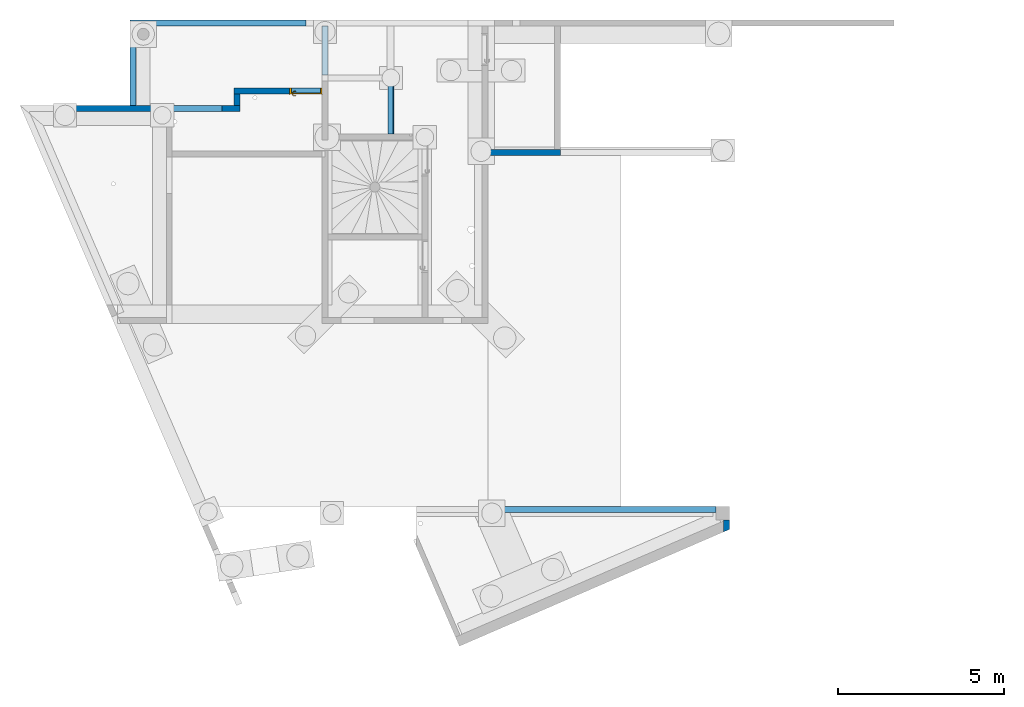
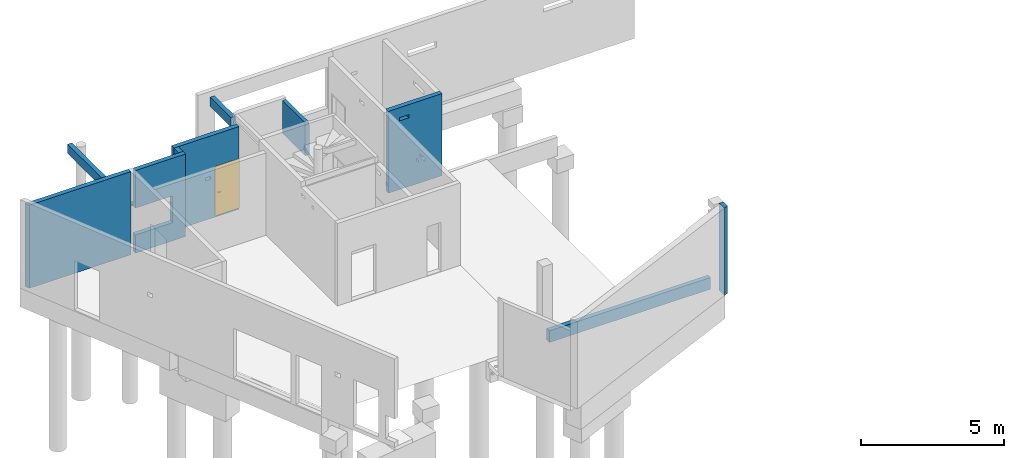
# One storey, part 5 of 29: 11 walls, 1 door, 9 openings.
"""IFC2X3 building model written with IfcOpenShell, lengths in centimetres."""

from ifc_helpers import new_model, entity, si_unit, converted_unit, derived_unit, direction, frame, frame_2d, origin, origin_2d_with_axis, place, context, subcontext, project, spatial, polyline, rectangle, outline, extrude, clip, bounded_halfspace, faceted_brep, source, transform, mapped, material, material_list, layer, layer_set, layer_usage, type_object, type_shapes, element, fill, save


model = new_model("IFC2X3")

# Units and contexts
model_context = context("Model", 3, precision=0.001, world=origin(), true_north=direction((6.12303176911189e-17, 1.0)))
body_context = subcontext(model_context, "Body", "Model", "MODEL_VIEW")
ifc_project = project(units=[si_unit("LENGTHUNIT", "METRE", prefix="CENTI"), si_unit("AREAUNIT", "SQUARE_METRE"), si_unit("VOLUMEUNIT", "CUBIC_METRE"), converted_unit("PLANEANGLEUNIT", "DEGREE", entity("IfcRatioMeasure", 0.0174532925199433), si_unit("PLANEANGLEUNIT", "RADIAN"), dimensions=[0, 0, 0, 0, 0, 0, 0]), si_unit("MASSUNIT", "GRAM", prefix="KILO"), derived_unit("MASSDENSITYUNIT", [(si_unit("MASSUNIT", "GRAM", prefix="KILO"), 1), (si_unit("LENGTHUNIT", "METRE"), -3)]), si_unit("TIMEUNIT", "SECOND"), si_unit("FREQUENCYUNIT", "HERTZ"), si_unit("THERMODYNAMICTEMPERATUREUNIT", "DEGREE_CELSIUS"), derived_unit("THERMALTRANSMITTANCEUNIT", [(si_unit("MASSUNIT", "GRAM", prefix="KILO"), 1), (si_unit("THERMODYNAMICTEMPERATUREUNIT", "KELVIN"), -1), (si_unit("TIMEUNIT", "SECOND"), -3)]), derived_unit("VOLUMETRICFLOWRATEUNIT", [(si_unit("LENGTHUNIT", "METRE"), 3), (si_unit("TIMEUNIT", "SECOND"), -1)]), si_unit("ELECTRICCURRENTUNIT", "AMPERE"), si_unit("ELECTRICVOLTAGEUNIT", "VOLT"), si_unit("POWERUNIT", "WATT"), si_unit("FORCEUNIT", "NEWTON"), si_unit("ILLUMINANCEUNIT", "LUX"), si_unit("LUMINOUSFLUXUNIT", "LUMEN"), si_unit("LUMINOUSINTENSITYUNIT", "CANDELA"), derived_unit("USERDEFINED", [(si_unit("MASSUNIT", "GRAM", prefix="KILO"), -1), (si_unit("LENGTHUNIT", "METRE"), -2), (si_unit("TIMEUNIT", "SECOND"), 3), (si_unit("LUMINOUSFLUXUNIT", "LUMEN"), 1)]), derived_unit("LINEARVELOCITYUNIT", [(si_unit("LENGTHUNIT", "METRE"), 1), (si_unit("TIMEUNIT", "SECOND"), -1)]), si_unit("PRESSUREUNIT", "PASCAL"), derived_unit("USERDEFINED", [(si_unit("LENGTHUNIT", "METRE"), -2), (si_unit("MASSUNIT", "GRAM", prefix="KILO"), 1), (si_unit("TIMEUNIT", "SECOND"), -2)])], contexts=[model_context])

# Site, building, storey
site_placement = place(None, origin())
site = spatial("IfcSite", under=ifc_project, at=site_placement, Name="Default", CompositionType="ELEMENT")
building_placement = place(site_placement, origin())
building = spatial("IfcBuilding", under=site, at=building_placement, Name="CAGE 03", CompositionType="ELEMENT")
storey_placement = place(building_placement, frame((0.0, 0.0, -34.0)))
storey = spatial("IfcBuildingStorey", under=building, at=storey_placement, Name="+3.66", CompositionType="ELEMENT", Elevation=-34.0000000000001)

# Wall, opening
ifc_material_1 = material(Name="Béton, C25/30")
ifc_layer = layer(ifc_material_1, 18.0)
ifc_layer_set = layer_set([ifc_layer], Name="Mur de base:Voile BA 18")
ifc_layer_usage_1 = layer_usage(ifc_layer_set, "AXIS2", "NEGATIVE", 9.0)
wall_type = type_object("IfcWallType", Name="Mur de base:Voile BA 18", PredefinedType="STANDARD", material=ifc_layer_set)
wall_1_placement = place(storey_placement, frame((3663.36582014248, 5275.66066607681, -5.0), z_axis=(0.0, 0.0, 1.0), x_axis=(0.0, -1.0, 0.0)))
wall_1 = element("IfcWallStandardCase", 1, at=wall_1_placement, inside=storey, type_object=wall_type, material=ifc_layer_usage_1, Name="Mur de base:Voile BA 18", ObjectType="Mur de base:Voile BA 18", context=body_context, shape_type="SweptSolid", body=[
    extrude(rectangle(XDim=147.0, YDim=18.0000000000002, at=frame_2d((73.5000000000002, 9.05941988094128e-14), x_axis=(-1.0, 0.0))), origin(), (0.0, 0.0, 1.0), 356.0),
])
opening_1_placement = place(wall_1_placement, frame((5275.66066607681, -3663.36582014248, 0.0), z_axis=(0.0, 0.0, 1.0), x_axis=(0.0, 1.0, 0.0)))
element("IfcOpeningElement", 2, at=opening_1_placement, cuts=wall_1, Name="Mur de base:Voile BA 18", ObjectType="Opening", context=body_context, shape_type="SweptSolid", body=[
    extrude(rectangle(XDim=311.0, YDim=146.999999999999, at=frame_2d((0.0, 0.0), x_axis=(0.0, 1.0))), frame((3519.96582014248, 5202.16066607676, 160.5), z_axis=(1.0, 0.0, 0.0), x_axis=(0.0, 1.0, 0.0)), (0.0, 0.0, 1.0), 304.8),
])

# Wall
ifc_layer_usage_2 = layer_usage(ifc_layer_set, "AXIS2", "POSITIVE", -9.0)
wall_2_placement = place(storey_placement, frame((4869.36582014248, 3755.29128037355, 0.0), z_axis=(0.0, 0.0, 1.0), x_axis=(0.0, 1.0, 0.0)))
element("IfcWallStandardCase", 3, at=wall_2_placement, inside=storey, type_object=wall_type, material=ifc_layer_usage_2, Name="Mur de base:Voile BA 18", ObjectType="Mur de base:Voile BA 18", context=body_context, shape_type="SweptSolid", body=[
    extrude(outline(polyline([(36.3693857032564, -9.0), (36.3693857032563, 9.0), (32.6878337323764, 9.0), (0.0, 9.0), (1.65957298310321, 5.16447533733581), (7.78832528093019, -9.0), (36.3693857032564, -9.0)])), origin(), (0.0, 0.0, 1.0), 374.0),
])

# Wall, opening
ifc_layer_usage_3 = layer_usage(ifc_layer_set, "AXIS2", "NEGATIVE", 9.0)
wall_3_placement = place(storey_placement, frame((4152.36582014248, 4895.66066607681, 0.0)))
wall_3 = element("IfcWallStandardCase", 4, at=wall_3_placement, inside=storey, type_object=wall_type, material=ifc_layer_usage_3, Name="Mur de base:Voile BA 18", ObjectType="Mur de base:Voile BA 18", context=body_context, shape_type="SweptSolid", body=[
    extrude(rectangle(XDim=218.0, YDim=17.9999999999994, at=frame_2d((109.0, -9.9475983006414e-14), x_axis=(-1.0, 0.0))), origin(), (0.0, 0.0, 1.0), 351.0),
])
opening_2_placement = place(storey_placement, frame((4152.36582014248, 4895.66066607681, 0.0)))
element("IfcOpeningElement", 5, at=opening_2_placement, cuts=wall_3, Name="Mur de base:Voile BA 18:1", ObjectType="Opening", context=body_context, shape_type="SweptSolid", body=[
    extrude(rectangle(XDim=18.0000000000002, YDim=38.0, at=origin_2d_with_axis()), frame((64.0295136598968, 0.0, 294.076580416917), z_axis=(0.0, 0.0, 1.0), x_axis=(0.0, -1.0, 0.0)), (0.0, 0.0, 1.0), 14.0),
])

ifc_layer_usage_4 = layer_usage(ifc_layer_set, "AXIS2", "POSITIVE", -9.0)
wall_4_placement = place(storey_placement, frame((3861.36582014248, 5110.66066607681, 227.0), z_axis=(0.0, 0.0, 1.0), x_axis=(0.0, -1.0, 0.0)))
wall_4 = element("IfcWallStandardCase", 6, at=wall_4_placement, inside=storey, type_object=wall_type, material=ifc_layer_usage_4, Name="Mur de base:Voile BA 18", ObjectType="Mur de base:Voile BA 18", context=body_context, shape_type="Clipping", body=[
    clip(clip(extrude(rectangle(XDim=159.999999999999, YDim=18.0000000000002, at=frame_2d((79.9999999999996, -8.08242361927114e-14), x_axis=(-1.0, 0.0))), origin(), (0.0, 0.0, 1.0), 140.0), bounded_halfspace(frame((0.0, 6.0, 124.0), z_axis=(0.0, 0.0, -1.0), x_axis=(1.0, 0.0, 0.0)), True, frame((0.0, 6.0, 124.0), z_axis=(0.0, 0.0, -1.0), x_axis=(1.0, 0.0, 0.0)), polyline([(0.0, 0.0), (0.0, -3.0), (160.0, -3.0), (160.0, 0.0), (0.0, 0.0)]))), bounded_halfspace(frame((160.0, 6.0, 124.0), z_axis=(0.0, -1.0, 0.0), x_axis=(0.0, 0.0, 1.0)), True, frame((160.0, 6.0, 124.0), z_axis=(0.0, -1.0, 0.0), x_axis=(0.0, 0.0, 1.0)), polyline([(0.0, 0.0), (16.0, 0.0), (16.0, 160.0), (0.0, 160.0), (0.0, 0.0)]))),
])
opening_3_placement = place(wall_4_placement, frame((5110.66066607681, -3861.36582014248, -227.0), z_axis=(0.0, 0.0, 1.0), x_axis=(0.0, 1.0, 0.0)))
element("IfcOpeningElement", 7, at=opening_3_placement, cuts=wall_4, Name="Mur de base:Voile BA 18", ObjectType="Opening", context=body_context, shape_type="SweptSolid", body=[
    extrude(rectangle(XDim=232.0, YDim=160.0, at=frame_2d((0.0, 0.0), x_axis=(0.0, 1.0))), frame((3717.96582014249, 5030.66066607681, 111.0), z_axis=(1.0, 0.0, 0.0), x_axis=(0.0, 1.0, 0.0)), (0.0, 0.0, 1.0), 304.8),
])

# Wall, opening, door
ifc_layer_usage_5 = layer_usage(ifc_layer_set, "AXIS2", "POSITIVE", -9.0)
wall_5_placement = place(storey_placement, frame((3389.86582014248, 5079.66066607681, -5.0)))
wall_5 = element("IfcWallStandardCase", 8, at=wall_5_placement, inside=storey, type_object=wall_type, material=ifc_layer_usage_5, Name="Mur de base:Voile BA 18", ObjectType="Mur de base:Voile BA 18", context=body_context, shape_type="SweptSolid", body=[
    extrude(rectangle(XDim=264.500000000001, YDim=17.9999999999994, at=frame_2d((132.250000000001, 1.33226762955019e-14), x_axis=(-1.0, 0.0))), origin(), (0.0, 0.0, 1.0), 354.0),
])
opening_4_placement = place(wall_5_placement, frame((264.500000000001, 9.0, 5.0)))
opening_4 = element("IfcOpeningElement", 9, at=opening_4_placement, cuts=wall_5, Name="Int. Simple:HB93:1", ObjectType="Opening", context=body_context, shape_type="SweptSolid", body=[
    extrude(rectangle(XDim=210.000000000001, YDim=96.9999999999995, at=frame_2d((105.000000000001, 48.4999999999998), x_axis=(1.0, 0.0))), frame((0.0, 0.0, 0.0), z_axis=(0.0, -1.0, 0.0), x_axis=(0.0, 0.0, 1.0)), (0.0, 0.0, 1.0), 18.0),
])
ifc_material_2 = material(Name="Finition Peinture - Blanc satiné")
ifc_material_3 = material(Name="Bois - Panneau de porte")
ifc_material_4 = material(Name="Bois - Cadre de porte")
ifc_material_list_1 = material_list([ifc_material_2, ifc_material_3, ifc_material_4])
ifc_material_list_2 = material_list([ifc_material_2, ifc_material_3, ifc_material_4])
door_style = type_object("IfcDoorStyle", Name="HB93", ConstructionType="NOTDEFINED", OperationType="SINGLE_SWING_LEFT", ParameterTakesPrecedence=False, Sizeable=False, material=ifc_material_list_2)
shared_shape = source(origin(), body_context, "Body", "Brep", [
    faceted_brep([(10.5352761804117, -0.500000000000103, 86.6003983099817), (11.5000000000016, -0.500000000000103, 87.0), (11.5000000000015, -0.500000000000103, 108.0), (10.5352761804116, -0.500000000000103, 108.399601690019), (9.50000000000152, -0.500000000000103, 108.535898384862), (8.46472381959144, -0.500000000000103, 108.399601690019), (7.50000000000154, -0.500000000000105, 108.0), (7.50000000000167, -0.500000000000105, 87.0), (8.46472381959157, -0.500000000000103, 86.6003983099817), (9.50000000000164, -0.500000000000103, 86.464101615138), (10.5352761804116, 0.0, 108.399601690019), (11.5000000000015, 0.0, 108.0), (11.5000000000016, 0.0, 87.0), (10.5352761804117, 0.0, 86.6003983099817), (9.50000000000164, 0.0, 86.464101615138), (8.46472381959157, 0.0, 86.6003983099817), (7.50000000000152, 0.0, 87.0), (7.50000000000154, 0.0, 108.0), (8.46472381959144, 0.0, 108.399601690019), (9.50000000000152, 0.0, 108.535898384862)], [[[0, 1, 2, 3, 4, 5, 6, 7, 8, 9]], [[10, 11, 12, 13, 14, 15, 16, 17, 18, 19]], [[16, 15, 8, 7]], [[8, 15, 14, 9]], [[14, 13, 0, 9]], [[13, 12, 1, 0]], [[2, 1, 12, 11]], [[11, 10, 3, 2]], [[3, 10, 19, 4]], [[19, 18, 5, 4]], [[18, 17, 6, 5]], [[7, 6, 17, 16]]]),
    faceted_brep([(10.5352761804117, 4.0, 86.6003983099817), (11.5000000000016, 4.0, 87.0), (11.5000000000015, 4.0, 108.0), (10.5352761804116, 4.0, 108.399601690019), (9.50000000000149, 4.0, 108.535898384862), (8.46472381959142, 4.0, 108.399601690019), (7.50000000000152, 4.0, 108.0), (7.50000000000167, 4.0, 87.0), (8.46472381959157, 4.0, 86.6003983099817), (9.50000000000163, 4.0, 86.464101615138), (10.5352761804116, 4.49999999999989, 108.399601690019), (11.5000000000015, 4.4999999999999, 108.0), (11.5000000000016, 4.4999999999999, 87.0), (10.5352761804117, 4.49999999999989, 86.6003983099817), (9.50000000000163, 4.49999999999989, 86.464101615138), (8.46472381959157, 4.49999999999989, 86.6003983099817), (7.50000000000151, 4.49999999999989, 87.0), (7.50000000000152, 4.49999999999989, 108.0), (8.46472381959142, 4.49999999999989, 108.399601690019), (9.50000000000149, 4.49999999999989, 108.535898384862)], [[[0, 1, 2, 3, 4, 5, 6, 7, 8, 9]], [[10, 11, 12, 13, 14, 15, 16, 17, 18, 19]], [[11, 10, 3, 2]], [[3, 10, 19, 4]], [[19, 18, 5, 4]], [[18, 17, 6, 5]], [[7, 6, 17, 16]], [[16, 15, 8, 7]], [[8, 15, 14, 9]], [[14, 13, 0, 9]], [[13, 12, 1, 0]], [[2, 1, 12, 11]]]),
    faceted_brep([(9.29747013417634, -0.500000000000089, 100.778044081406), (9.70252986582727, -0.500000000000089, 100.778044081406), (10.1000000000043, -0.500000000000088, 100.699999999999), (10.1000000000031, -0.500000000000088, 99.3000000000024), (9.70252986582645, -0.500000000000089, 99.2219559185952), (9.29747013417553, -0.500000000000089, 99.221955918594), (8.89999999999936, -0.500000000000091, 99.2999999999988), (8.89999999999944, -0.500000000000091, 100.7), (8.89999999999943, -3.26509507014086, 100.7), (9.29747013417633, -3.10045754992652, 100.778044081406), (10.9023585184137, -4.70534593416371, 100.778044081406), (11.0701397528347, -4.30028620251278, 100.778044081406), (9.70252986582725, -2.93267631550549, 100.778044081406), (10.1000000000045, -2.76803879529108, 100.7), (10.1000000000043, -2.76803879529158, 99.3000000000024), (9.70252986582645, -2.93267631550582, 99.2219559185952), (11.0701397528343, -4.30028620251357, 99.2219559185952), (10.9023585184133, -4.70534593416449, 99.221955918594), (9.29747013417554, -3.10045754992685, 99.221955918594), (8.89999999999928, -3.26509507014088, 99.2999999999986), (10.7377209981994, -5.1028160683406, 100.7), (11.2347772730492, -3.90281606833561, 100.7), (11.2347772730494, -3.90281606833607, 99.3000000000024), (10.7377209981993, -5.10281606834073, 99.2999999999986), (19.5018640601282, -5.1028160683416, 99.2999999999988), (19.5018640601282, -4.70534593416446, 99.221955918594), (19.5018640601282, -4.30028620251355, 99.2219559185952), (19.5018640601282, -3.90281606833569, 99.3000000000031), (19.5018640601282, -3.90281606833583, 100.7), (19.5018640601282, -4.30028620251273, 100.778044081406), (19.5018640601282, -4.70534593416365, 100.778044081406), (19.5018640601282, -5.10281606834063, 100.699999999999), (14.7307697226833, -5.10281606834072, 100.7), (15.28600190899, -4.5028160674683, 100.78786867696), (15.3683206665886, -3.9028160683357, 100.7), (15.3683206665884, -3.90281606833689, 99.3000000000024), (15.2860018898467, -4.50281607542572, 99.2121313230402), (14.7307700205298, -5.10281606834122, 99.2999999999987)], [[[0, 1, 2, 3, 4, 5, 6, 7]], [[8, 9, 0, 7]], [[9, 10, 11, 12, 1, 0]], [[12, 13, 2, 1]], [[3, 2, 13, 14]], [[14, 15, 4, 3]], [[15, 16, 17, 18, 5, 4]], [[18, 19, 6, 5]], [[7, 6, 19, 8]], [[20, 10, 9, 8]], [[11, 21, 13, 12]], [[14, 13, 21, 22]], [[22, 16, 15, 14]], [[17, 23, 19, 18]], [[8, 19, 23, 20]], [[24, 25, 26, 27, 28, 29, 30, 31]], [[32, 30, 33]], [[31, 30, 32]], [[10, 20, 32]], [[33, 34, 11]], [[21, 11, 34]], [[34, 29, 28]], [[30, 29, 33]], [[29, 34, 33]], [[10, 32, 33]], [[10, 33, 11]], [[22, 21, 34, 28, 27, 35]], [[35, 26, 36]], [[37, 36, 25]], [[22, 35, 16]], [[35, 27, 26]], [[24, 37, 25]], [[23, 17, 37]], [[37, 17, 36]], [[17, 16, 36]], [[16, 35, 36]], [[25, 36, 26]], [[20, 23, 37, 24, 31, 32]]]),
    faceted_brep([(9.29747013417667, 4.49999999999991, 100.778044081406), (8.89999999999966, 4.49999999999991, 100.7), (8.89999999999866, 4.49999999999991, 99.2999999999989), (9.2974701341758, 4.49999999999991, 99.221955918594), (9.70252986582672, 4.49999999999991, 99.2219559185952), (10.1000000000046, 4.49999999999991, 99.3000000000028), (10.1000000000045, 4.49999999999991, 100.7), (9.70252986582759, 4.49999999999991, 100.778044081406), (10.1000000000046, 6.7485204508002, 99.3000000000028), (10.1000000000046, 6.74852045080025, 100.7), (9.70252986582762, 6.91315797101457, 100.778044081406), (11.0838906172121, 8.29451872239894, 100.778044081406), (10.9161093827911, 8.69957845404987, 100.778044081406), (9.29747013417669, 7.0809392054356, 100.778044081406), (8.89999999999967, 7.24557672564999, 100.7), (8.89999999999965, 7.24557672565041, 99.2999999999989), (9.29747013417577, 7.08093920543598, 99.221955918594), (10.9161093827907, 8.69957845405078, 99.221955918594), (11.0838906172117, 8.29451872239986, 99.2219559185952), (9.7025298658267, 6.91315797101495, 99.2219559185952), (11.2485281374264, 7.89704858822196, 99.3000000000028), (11.2485281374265, 7.89704858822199, 100.7), (10.7514718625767, 9.0970485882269, 100.7), (10.751471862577, 9.0970485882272, 99.2999999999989), (19.504578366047, 7.89704858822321, 99.3000000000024), (19.504578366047, 8.29451872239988, 99.2219559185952), (19.504578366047, 8.6995784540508, 99.221955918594), (19.504578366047, 9.09704858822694, 99.2999999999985), (19.504578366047, 9.09704858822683, 100.7), (19.504578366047, 8.69957845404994, 100.778044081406), (19.504578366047, 8.29451872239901, 100.778044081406), (19.504578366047, 7.89704858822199, 100.7), (15.3765520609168, 7.89704858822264, 99.3000000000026), (15.3765532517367, 7.89704858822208, 100.7), (15.294234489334, 8.49704858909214, 100.78786867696), (14.7445205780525, 9.09704858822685, 100.7), (14.7445204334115, 9.09704858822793, 99.2999999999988), (15.2942345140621, 8.49704858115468, 99.2121313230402)], [[[0, 1, 2, 3, 4, 5, 6, 7]], [[6, 5, 8, 9]], [[9, 10, 7, 6]], [[10, 11, 12, 13, 0, 7]], [[13, 14, 1, 0]], [[2, 1, 14, 15]], [[15, 16, 3, 2]], [[16, 17, 18, 19, 4, 3]], [[19, 8, 5, 4]], [[9, 8, 20, 21]], [[21, 11, 10, 9]], [[12, 22, 14, 13]], [[15, 14, 22, 23]], [[23, 17, 16, 15]], [[18, 20, 8, 19]], [[24, 25, 26, 27, 28, 29, 30, 31]], [[21, 20, 32, 24, 31, 33]], [[33, 30, 34]], [[35, 34, 29]], [[21, 33, 11]], [[33, 31, 30]], [[28, 35, 29]], [[22, 12, 35]], [[35, 12, 34]], [[12, 11, 34]], [[11, 33, 34]], [[29, 34, 30]], [[22, 35, 28, 27, 36, 23]], [[36, 26, 37]], [[27, 26, 36]], [[17, 23, 36]], [[37, 32, 18]], [[20, 18, 32]], [[32, 25, 24]], [[26, 25, 37]], [[25, 32, 37]], [[17, 36, 37]], [[17, 37, 18]]]),
    faceted_brep([(3.50000000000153, 4.0, 206.5), (93.5000000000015, 4.0, 206.5), (93.5000000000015, 4.0, 0.0), (3.50000000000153, 4.0, 0.0), (3.50000000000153, 0.0, 206.5), (3.50000000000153, 0.0, 0.0), (93.5000000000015, 0.0, 0.0), (93.5000000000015, 0.0, 206.5)], [[[0, 1, 2, 3]], [[4, 5, 6, 7]], [[1, 0, 4, 7]], [[2, 1, 7, 6]], [[3, 2, 6, 5]], [[0, 3, 5, 4]]]),
    faceted_brep([(0.0, 0.0, 0.0), (0.0, 18.0, 0.0), (5.0, 18.0, 0.0), (5.0, 4.0, 0.0), (3.50000000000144, 4.0, 0.0), (3.50000000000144, 0.0, 0.0), (0.0, 0.0, 210.0), (0.0, 18.0, 210.0), (97.0, 18.0, 210.0), (97.0, 18.0, 0.0), (92.0, 18.0, 0.0), (92.0, 18.0, 205.0), (5.0, 18.0, 205.0), (5.0, 4.0, 205.0), (92.0, 4.0, 205.0), (92.0, 4.0, 0.0), (93.4999999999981, 4.0, 0.0), (93.4999999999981, 4.0, 206.5), (3.50000000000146, 4.0, 206.5), (3.50000000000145, 0.0, 206.5), (93.4999999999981, 0.0, 206.5), (93.4999999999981, 0.0, 0.0), (97.0, 0.0, 0.0), (97.0, 0.0, 210.0)], [[[0, 1, 2, 3, 4, 5]], [[1, 0, 6, 7]], [[2, 1, 7, 8, 9, 10, 11, 12]], [[3, 2, 12, 13]], [[4, 3, 13, 14, 15, 16, 17, 18]], [[5, 4, 18, 19]], [[0, 5, 19, 20, 21, 22, 23, 6]], [[8, 23, 22, 9]], [[22, 21, 16, 15, 10, 9]], [[14, 11, 10, 15]], [[20, 17, 16, 21]], [[7, 6, 23, 8]], [[13, 12, 11, 14]], [[19, 18, 17, 20]]]),
    faceted_brep([(1.5, 18.0, 0.0), (-1.49999999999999, 18.0, 0.0), (-1.49999999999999, 18.5000000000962, 0.0), (1.5, 18.5000000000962, 0.0), (1.5, 18.0, 208.500000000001), (95.4999999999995, 18.0, 208.500000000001), (95.4999999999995, 18.0, 0.0), (98.4999999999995, 18.0, 0.0), (98.4999999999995, 18.0, 211.500000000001), (-1.49999999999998, 18.0, 211.500000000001), (-1.49999999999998, 18.5000000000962, 211.500000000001), (98.4999999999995, 18.5000000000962, 211.500000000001), (98.4999999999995, 18.5000000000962, 0.0), (95.4999999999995, 18.5000000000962, 0.0), (95.4999999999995, 18.5000000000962, 208.500000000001), (1.50000000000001, 18.5000000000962, 208.500000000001)], [[[0, 1, 2, 3]], [[1, 0, 4, 5, 6, 7, 8, 9]], [[2, 1, 9, 10]], [[3, 2, 10, 11, 12, 13, 14, 15]], [[0, 3, 15, 4]], [[6, 13, 12, 7]], [[5, 14, 13, 6]], [[11, 8, 7, 12]], [[10, 9, 8, 11]], [[4, 15, 14, 5]]]),
    faceted_brep([(-1.49999999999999, -0.5, 0.0), (1.5, -0.5, 0.0), (1.5, -0.5, 208.500000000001), (95.4999999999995, -0.5, 208.500000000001), (95.4999999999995, -0.5, 0.0), (98.4999999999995, -0.5, 0.0), (98.4999999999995, -0.5, 211.500000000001), (-1.49999999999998, -0.5, 211.500000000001), (-1.49999999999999, 0.0, 0.0), (-1.49999999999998, 0.0, 211.500000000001), (1.5, 0.0, 0.0), (98.4999999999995, 0.0, 211.500000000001), (98.4999999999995, 0.0, 0.0), (95.4999999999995, 0.0, 0.0), (95.4999999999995, 0.0, 208.500000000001), (1.50000000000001, 0.0, 208.500000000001)], [[[0, 1, 2, 3, 4, 5, 6, 7]], [[8, 0, 7, 9]], [[10, 8, 9, 11, 12, 13, 14, 15]], [[1, 10, 15, 2]], [[3, 14, 13, 4]], [[11, 6, 5, 12]], [[9, 7, 6, 11]], [[2, 15, 14, 3]], [[4, 13, 12, 5]], [[1, 0, 8, 10]]]),
])
type_shapes(door_style, [shared_shape])
door_placement = place(opening_4_placement, frame((-97.0, -18.0, 0.0)))
door = element("IfcDoor", 10, at=door_placement, inside=storey, type_object=door_style, material=ifc_material_list_1, Name="Int. Simple:HB93", ObjectType="HB93", OverallHeight=210.000000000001, OverallWidth=96.9999999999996, context=body_context, shape_type="MappedRepresentation", body=[
    mapped(shared_shape, transform((0.0, 0.0, 0.0), scale=1.0)),
])
fill(opening_4, door)

# Wall
ifc_layer_usage_6 = layer_usage(ifc_layer_set, "AXIS2", "POSITIVE", -9.0)
wall_6_placement = place(storey_placement, frame((3204.36582014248, 5028.16066607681, -5.0)))
element("IfcWallStandardCase", 11, at=wall_6_placement, inside=storey, type_object=wall_type, material=ifc_layer_usage_6, Name="Mur de base:Voile BA 18", ObjectType="Mur de base:Voile BA 18", context=body_context, shape_type="Clipping", body=[
    clip(extrude(rectangle(XDim=203.499999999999, YDim=17.9999999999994, at=frame_2d((101.75, -8.97060203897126e-14), x_axis=(-1.0, 0.0))), origin(), (0.0, 0.0, 1.0), 354.0), bounded_halfspace(frame((150.0, -9.0, 193.0), z_axis=(1.0, 0.0, 0.0), x_axis=(0.0, 1.0, 0.0)), True, frame((150.0, -9.0, 193.0), z_axis=(1.0, 0.0, 0.0), x_axis=(0.0, 1.0, 0.0)), polyline([(0.0, 0.0), (0.0, -115.0), (18.0, -115.0), (18.0, 0.0), (0.0, 0.0)]))),
])

# Wall, opening
ifc_layer_usage_7 = layer_usage(ifc_layer_set, "AXIS2", "NEGATIVE", 9.0)
wall_7_placement = place(storey_placement, frame((2766.5257687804, 5028.16066607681, -5.0)))
wall_7 = element("IfcWallStandardCase", 12, at=wall_7_placement, inside=storey, type_object=wall_type, material=ifc_layer_usage_7, Name="Mur de base:Voile BA 18", ObjectType="Mur de base:Voile BA 18", context=body_context, shape_type="SweptSolid", body=[
    extrude(outline(polyline([(419.840051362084, -9.0), (419.840051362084, 9.0), (370.840051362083, 9.0), (330.840051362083, 9.0), (328.840051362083, 9.0), (310.840051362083, 9.0), (115.840051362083, 9.0), (0.0, 9.0), (7.78832528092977, -9.0), (115.840051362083, -9.0), (419.840051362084, -9.0)])), origin(), (0.0, 0.0, 1.0), 356.0),
])
opening_5_placement = place(wall_7_placement, origin())
element("IfcOpeningElement", 13, at=opening_5_placement, cuts=wall_7, Name="Mur de base:Voile BA 18", ObjectType="Opening", context=body_context, shape_type="SweptSolid", body=[
    extrude(rectangle(XDim=311.0, YDim=17.9999999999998, at=frame_2d((-2.16715534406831e-13, 0.0), x_axis=(0.0, 1.0))), frame((319.840051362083, 9.0, 160.5), z_axis=(0.0, 1.0, 0.0), x_axis=(-1.0, 0.0, 0.0)), (0.0, 0.0, 1.0), 238.499999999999),
])

# Walls
ifc_layer_usage_8 = layer_usage(ifc_layer_set, "AXIS2", "NEGATIVE", 9.0)
wall_8_placement = place(storey_placement, frame((3398.86582014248, 5070.66066607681, -5.0), z_axis=(0.0, 0.0, 1.0), x_axis=(0.0, -1.0, 0.0)))
element("IfcWallStandardCase", 14, at=wall_8_placement, inside=storey, type_object=wall_type, material=ifc_layer_usage_8, Name="Mur de base:Voile BA 18", ObjectType="Mur de base:Voile BA 18", context=body_context, shape_type="SweptSolid", body=[
    extrude(rectangle(XDim=33.5000000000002, YDim=18.0000000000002, at=frame_2d((16.7500000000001, 2.66453525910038e-14), x_axis=(-1.0, 0.0))), origin(), (0.0, 0.0, 1.0), 354.0),
])
ifc_layer_usage_9 = layer_usage(ifc_layer_set, "AXIS2", "NEGATIVE", 9.0)
wall_9_placement = place(storey_placement, frame((4838.36582014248, 3822.66066607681, 0.0), z_axis=(0.0, 0.0, 1.0), x_axis=(-1.0, 0.0, 0.0)))
element("IfcWallStandardCase", 15, at=wall_9_placement, inside=storey, type_object=wall_type, material=ifc_layer_usage_9, Name="Mur de base:Voile BA 18", ObjectType="Mur de base:Voile BA 18", context=body_context, shape_type="SweptSolid", body=[
    extrude(rectangle(XDim=653.5, YDim=18.0000000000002, at=frame_2d((326.75, 3.10862446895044e-14), x_axis=(-1.0, 0.0))), origin(), (0.0, 0.0, 1.0), 50.0),
])

# Wall, openings
ifc_layer_usage_10 = layer_usage(ifc_layer_set, "AXIS2", "NEGATIVE", 9.0)
wall_10_placement = place(storey_placement, frame((3086.36582014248, 5275.66066607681, -5.0), z_axis=(0.0, 0.0, 1.0), x_axis=(0.0, -1.0, 0.0)))
wall_10 = element("IfcWallStandardCase", 16, at=wall_10_placement, inside=storey, type_object=wall_type, material=ifc_layer_usage_10, Name="Mur de base:Voile BA 18", ObjectType="Mur de base:Voile BA 18", context=body_context, shape_type="SweptSolid", body=[
    extrude(rectangle(XDim=238.500000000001, YDim=18.0000000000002, at=frame_2d((119.250000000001, -2.66453525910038e-14), x_axis=(-1.0, 0.0))), origin(), (0.0, 0.0, 1.0), 356.0),
])
opening_6_placement = place(wall_10_placement, origin())
element("IfcOpeningElement", 17, at=opening_6_placement, cuts=wall_10, Name="Mur de base:Voile BA 18", ObjectType="Opening", context=body_context, shape_type="SweptSolid", body=[
    extrude(rectangle(XDim=312.0, YDim=18.0000000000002, at=frame_2d((4.32542890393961e-13, 0.0), x_axis=(0.0, 1.0))), frame((-9.0, -9.0, 161.0), z_axis=(0.0, 1.0, 0.0), x_axis=(-1.0, 0.0, 0.0)), (0.0, 0.0, 1.0), 529.0),
])
opening_7_placement = place(wall_10_placement, frame((5275.66066607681, -3086.36582014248, 0.0), z_axis=(0.0, 0.0, 1.0), x_axis=(0.0, 1.0, 0.0)))
element("IfcOpeningElement", 18, at=opening_7_placement, cuts=wall_10, Name="Mur de base:Voile BA 18", ObjectType="Opening", context=body_context, shape_type="SweptSolid", body=[
    extrude(rectangle(XDim=311.0, YDim=238.5, at=frame_2d((0.0, -4.33431068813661e-13), x_axis=(1.0, 0.0))), frame((2924.96582014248, 5156.41066607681, 160.5), z_axis=(1.0, 0.0, 0.0), x_axis=(0.0, 0.0, 1.0)), (0.0, 0.0, 1.0), 304.8),
])

ifc_layer_usage_11 = layer_usage(ifc_layer_set, "AXIS2", "POSITIVE", -9.0)
wall_11_placement = place(storey_placement, frame((3606.36582014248, 5284.66066607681, -5.0), z_axis=(0.0, 0.0, 1.0), x_axis=(-1.0, 0.0, 0.0)))
wall_11 = element("IfcWallStandardCase", 19, at=wall_11_placement, inside=storey, type_object=wall_type, material=ifc_layer_usage_11, Name="Mur de base:Voile BA 18", ObjectType="Mur de base:Voile BA 18", context=body_context, shape_type="SweptSolid", body=[
    extrude(rectangle(XDim=529.000000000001, YDim=17.9999999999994, at=frame_2d((264.500000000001, -7.63833440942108e-14), x_axis=(-1.0, 0.0))), origin(), (0.0, 0.0, 1.0), 5.0),
])
opening_8_placement = place(wall_11_placement, origin())
element("IfcOpeningElement", 20, at=opening_8_placement, cuts=wall_11, Name="Mur de base:Voile BA 18", ObjectType="Opening", context=body_context, shape_type="SweptSolid", body=[
    extrude(rectangle(XDim=311.0, YDim=17.9999999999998, at=frame_2d((2.16715534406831e-13, 0.0), x_axis=(0.0, 1.0))), frame((520.0, 9.0, 160.5), z_axis=(0.0, 1.0, 0.0), x_axis=(1.0, 0.0, 0.0)), (0.0, 0.0, 1.0), 238.499999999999),
])
opening_9_placement = place(wall_11_placement, frame((3606.36582014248, 5284.66066607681, 0.0), z_axis=(0.0, 0.0, 1.0), x_axis=(-1.0, 0.0, 0.0)))
element("IfcOpeningElement", 21, at=opening_9_placement, cuts=wall_11, Name="Mur de base:Voile BA 18", ObjectType="Opening", context=body_context, shape_type="SweptSolid", body=[
    extrude(rectangle(XDim=312.0, YDim=529.0, at=frame_2d((0.0, -4.2632564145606e-13), x_axis=(1.0, 0.0))), frame((3341.86582014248, 5446.06066607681, 161.0), z_axis=(0.0, -1.0, 0.0), x_axis=(0.0, 0.0, 1.0)), (0.0, 0.0, 1.0), 304.8),
])

save(model, "model.ifc")
